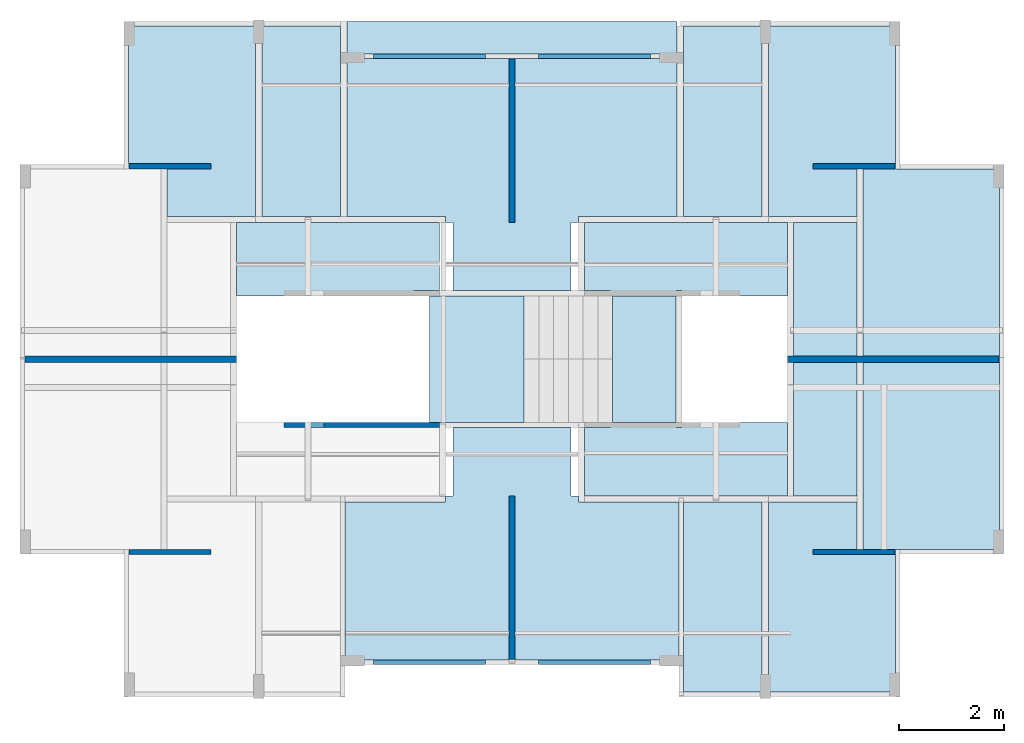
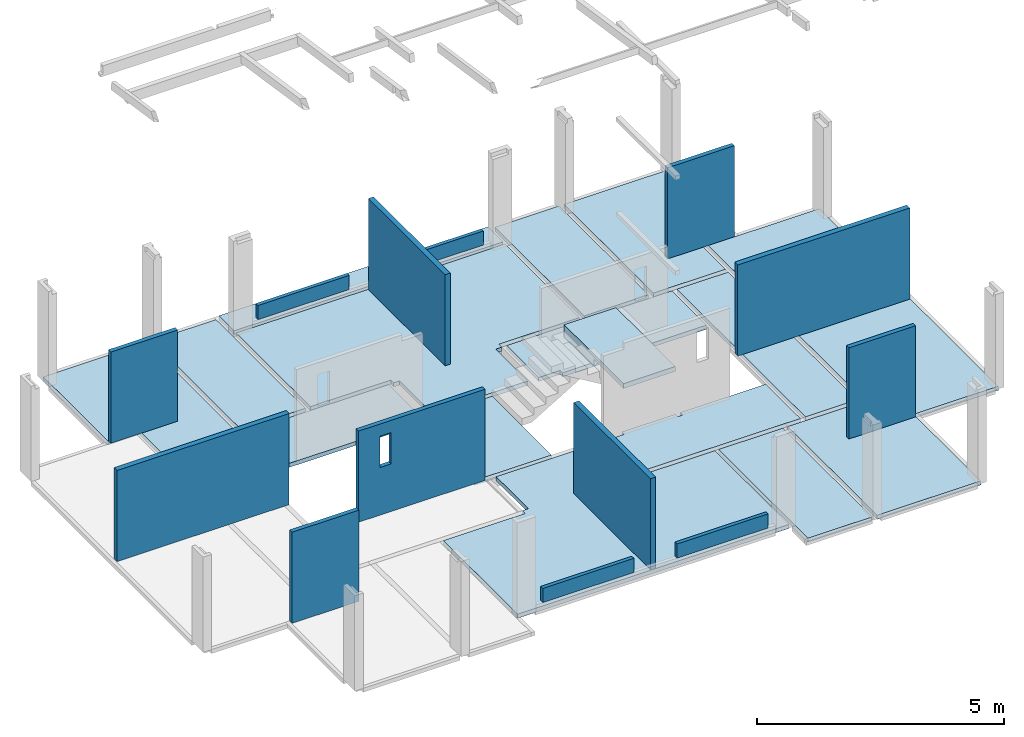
# One storey, part 6 of 9: 16 slabs, 13 walls, 1 opening, 1 element without a shape of its own.
"""IFC4 building model written with IfcOpenShell, lengths in metres."""

from ifc_helpers import new_model, entity, si_unit, converted_unit, derived_unit, direction, frame, frame_2d, origin, place, context, subcontext, project, spatial, polyline, indexed_curve, rectangle, outline, extrude, polygons, material, type_object, element, aggregate, save


model = new_model("IFC4")

# Units and contexts
model_context = context("Model", 3, precision=1e-05, world=origin(), true_north=direction((6.123031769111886e-17, 1.0)))
body_context = subcontext(model_context, "Body", "Model", "MODEL_VIEW")
ifc_project = project(units=[si_unit("LENGTHUNIT", "METRE"), si_unit("AREAUNIT", "SQUARE_METRE"), si_unit("VOLUMEUNIT", "CUBIC_METRE"), converted_unit("PLANEANGLEUNIT", "DEGREE", entity("IfcRatioMeasure", 0.017453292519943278), si_unit("PLANEANGLEUNIT", "RADIAN"), dimensions=[0, 0, 0, 0, 0, 0, 0]), si_unit("MASSUNIT", "GRAM", prefix="KILO"), derived_unit("MASSDENSITYUNIT", [(si_unit("MASSUNIT", "GRAM", prefix="KILO"), 1), (si_unit("LENGTHUNIT", "METRE"), -3)]), derived_unit("IONCONCENTRATIONUNIT", [(si_unit("MASSUNIT", "GRAM", prefix="KILO"), 1), (si_unit("LENGTHUNIT", "METRE"), -3)]), derived_unit("MOMENTOFINERTIAUNIT", [(si_unit("LENGTHUNIT", "METRE"), 4)]), si_unit("TIMEUNIT", "SECOND"), si_unit("FREQUENCYUNIT", "HERTZ"), si_unit("THERMODYNAMICTEMPERATUREUNIT", "DEGREE_CELSIUS"), derived_unit("THERMALTRANSMITTANCEUNIT", [(si_unit("MASSUNIT", "GRAM", prefix="KILO"), 1), (si_unit("THERMODYNAMICTEMPERATUREUNIT", "KELVIN"), -1), (si_unit("TIMEUNIT", "SECOND"), -3)]), derived_unit("THERMALCONDUCTANCEUNIT", [(si_unit("MASSUNIT", "GRAM", prefix="KILO"), 1), (si_unit("THERMODYNAMICTEMPERATUREUNIT", "KELVIN"), -1), (si_unit("TIMEUNIT", "SECOND"), -3), (si_unit("LENGTHUNIT", "METRE"), 1)]), derived_unit("VOLUMETRICFLOWRATEUNIT", [(si_unit("LENGTHUNIT", "METRE"), 3), (si_unit("TIMEUNIT", "SECOND"), -1)]), derived_unit("MASSFLOWRATEUNIT", [(si_unit("MASSUNIT", "GRAM", prefix="KILO"), 1), (si_unit("TIMEUNIT", "SECOND"), -1)]), derived_unit("ROTATIONALFREQUENCYUNIT", [(si_unit("TIMEUNIT", "SECOND"), -1)]), si_unit("ELECTRICCURRENTUNIT", "AMPERE"), si_unit("ELECTRICVOLTAGEUNIT", "VOLT"), si_unit("POWERUNIT", "WATT"), si_unit("FORCEUNIT", "NEWTON", prefix="KILO"), si_unit("ILLUMINANCEUNIT", "LUX"), si_unit("LUMINOUSFLUXUNIT", "LUMEN"), si_unit("LUMINOUSINTENSITYUNIT", "CANDELA"), derived_unit("USERDEFINED", [(si_unit("MASSUNIT", "GRAM", prefix="KILO"), -1), (si_unit("LENGTHUNIT", "METRE"), -2), (si_unit("TIMEUNIT", "SECOND"), 3), (si_unit("LUMINOUSFLUXUNIT", "LUMEN"), 1)]), derived_unit("USERDEFINED", [(si_unit("MASSUNIT", "GRAM", prefix="KILO"), 1), (si_unit("TIMEUNIT", "SECOND"), -3), (si_unit("LENGTHUNIT", "METRE"), 3), (si_unit("ELECTRICCURRENTUNIT", "AMPERE"), -2)]), derived_unit("SOUNDPOWERUNIT", [(si_unit("MASSUNIT", "GRAM", prefix="KILO"), 1), (si_unit("TIMEUNIT", "SECOND"), -3), (si_unit("LENGTHUNIT", "METRE"), 2)]), derived_unit("SOUNDPRESSUREUNIT", [(si_unit("MASSUNIT", "GRAM", prefix="KILO"), 1), (si_unit("LENGTHUNIT", "METRE"), -1), (si_unit("TIMEUNIT", "SECOND"), -2)]), derived_unit("LINEARVELOCITYUNIT", [(si_unit("LENGTHUNIT", "METRE"), 1), (si_unit("TIMEUNIT", "SECOND"), -1)]), si_unit("PRESSUREUNIT", "PASCAL"), derived_unit("USERDEFINED", [(si_unit("MASSUNIT", "GRAM", prefix="KILO"), 1), (si_unit("LENGTHUNIT", "METRE"), -2), (si_unit("TIMEUNIT", "SECOND"), -2)]), derived_unit("LINEARFORCEUNIT", [(si_unit("MASSUNIT", "GRAM", prefix="KILO"), 1), (si_unit("TIMEUNIT", "SECOND"), -2)]), derived_unit("PLANARFORCEUNIT", [(si_unit("MASSUNIT", "GRAM", prefix="KILO"), 1), (si_unit("LENGTHUNIT", "METRE"), -1), (si_unit("TIMEUNIT", "SECOND"), -2)]), derived_unit("SPECIFICHEATCAPACITYUNIT", [(si_unit("THERMODYNAMICTEMPERATUREUNIT", "KELVIN"), -1), (si_unit("LENGTHUNIT", "METRE"), 2), (si_unit("TIMEUNIT", "SECOND"), -2)]), derived_unit("HEATINGVALUEUNIT", [(si_unit("LENGTHUNIT", "METRE"), 2), (si_unit("TIMEUNIT", "SECOND"), -2)]), derived_unit("VAPORPERMEABILITYUNIT", [(si_unit("LENGTHUNIT", "METRE"), -1), (si_unit("TIMEUNIT", "SECOND"), 1)]), derived_unit("DYNAMICVISCOSITYUNIT", [(si_unit("MASSUNIT", "GRAM", prefix="KILO"), 1), (si_unit("TIMEUNIT", "SECOND"), -1), (si_unit("LENGTHUNIT", "METRE"), -1)]), derived_unit("THERMALEXPANSIONCOEFFICIENTUNIT", [(si_unit("THERMODYNAMICTEMPERATUREUNIT", "KELVIN"), -1)]), derived_unit("MODULUSOFELASTICITYUNIT", [(si_unit("MASSUNIT", "GRAM", prefix="KILO"), 1), (si_unit("LENGTHUNIT", "METRE"), -1), (si_unit("TIMEUNIT", "SECOND"), -2)]), derived_unit("ISOTHERMALMOISTURECAPACITYUNIT", [(si_unit("LENGTHUNIT", "METRE"), 3), (si_unit("MASSUNIT", "GRAM", prefix="KILO"), -1)]), derived_unit("MOISTUREDIFFUSIVITYUNIT", [(si_unit("TIMEUNIT", "SECOND"), -1), (si_unit("LENGTHUNIT", "METRE"), 2)])], contexts=[model_context])

# Site, building, storey
site_placement = place(None, origin())
site = spatial("IfcSite", under=ifc_project, at=site_placement, Name="Default", CompositionType="ELEMENT")
building_placement = place(site_placement, origin())
building = spatial("IfcBuilding", under=site, at=building_placement, Name="Las nubes", CompositionType="ELEMENT")
storey_placement = place(building_placement, frame((0.0, 0.0, 2.3500000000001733)))
storey = spatial("IfcBuildingStorey", under=building, at=storey_placement, Name="PISO 2", CompositionType="ELEMENT", Elevation=2.3500000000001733)

# Slabs
ifc_material_1 = material(Name="Concrete - Cast-in-Place Concrete - 28 MPa SLAB", Category="Materials")
slab_type_1 = type_object("IfcSlabType", Name="Floor:PLACA ESTRUCTURAL 0.10", PredefinedType="FLOOR", material=ifc_material_1)
slab_1_placement = place(storey_placement, origin())
element("IfcSlab", 1, at=slab_1_placement, inside=storey, type_object=slab_type_1, material=ifc_material_1, Name="Floor:PLACA ESTRUCTURAL 0.10", ObjectType="Floor:PLACA ESTRUCTURAL 0.10", PredefinedType="FLOOR", context=body_context, shape_type="SweptSolid", body=[
    extrude(outline(indexed_curve([(-0.5383333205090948, -1.0516670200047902), (2.0766666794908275, -1.0516670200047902), (2.07666667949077, 1.368332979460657), (-1.5383333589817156, 1.3683329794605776), (-1.5383333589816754, -0.316665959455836), (-0.5383333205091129, -0.31666595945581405), (-0.5383333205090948, -1.0516670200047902)], self_intersect=False)), frame((3.0841670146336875, -2.1716667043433, 0.0), z_axis=(0.0, 0.0, -1.0), x_axis=(0.0, 1.0, 0.0)), (0.0, 0.0, 1.0), 0.1),
])
slab_2_placement = place(storey_placement, origin())
element("IfcSlab", 2, at=slab_2_placement, inside=storey, type_object=slab_type_1, material=ifc_material_1, Name="Floor:PLACA ESTRUCTURAL 0.10", ObjectType="Floor:PLACA ESTRUCTURAL 0.10", PredefinedType="FLOOR", context=body_context, shape_type="SweptSolid", body=[
    extrude(outline(indexed_curve([(-3.7150000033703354, -0.9587507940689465), (3.7150000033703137, -0.9587507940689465), (3.7150000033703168, -0.33874973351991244), (3.614999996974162, -0.33874973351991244), (3.614999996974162, 1.636250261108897), (-3.6149999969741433, 1.636250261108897), (-3.6149999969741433, -0.3387497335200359), (-3.715000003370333, -0.33874973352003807), (-3.7150000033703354, -0.9587507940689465)], self_intersect=False)), frame((16.95124973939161, -6.425000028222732, 0.0), z_axis=(0.0, 0.0, -1.0), x_axis=(0.0, 1.0, 0.0)), (0.0, 0.0, 1.0), 0.1),
])
slab_3_placement = place(storey_placement, origin())
element("IfcSlab", 3, at=slab_3_placement, inside=storey, type_object=slab_type_1, material=ifc_material_1, Name="Floor:PLACA ESTRUCTURAL 0.10", ObjectType="Floor:PLACA ESTRUCTURAL 0.10", PredefinedType="FLOOR", context=body_context, shape_type="SweptSolid", body=[
    extrude(outline(indexed_curve([(-2.0766666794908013, -1.368332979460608), (1.538333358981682, -1.368332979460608), (1.5383333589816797, 0.316665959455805), (0.5383333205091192, 0.3166659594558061), (0.5383333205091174, 1.0516670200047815), (-2.0766666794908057, 1.0516670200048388), (-2.0766666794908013, -1.368332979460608)], self_intersect=False)), frame((15.56083298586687, -10.67833335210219, 0.0), z_axis=(0.0, 0.0, -1.0), x_axis=(0.0, 1.0, 0.0)), (0.0, 0.0, 1.0), 0.1),
])
slab_4_placement = place(storey_placement, origin())
element("IfcSlab", 4, at=slab_4_placement, inside=storey, type_object=slab_type_1, material=ifc_material_1, Name="Floor:PLACA ESTRUCTURAL 0.10", ObjectType="Floor:PLACA ESTRUCTURAL 0.10", PredefinedType="FLOOR", context=body_context, shape_type="SweptSolid", body=[
    extrude(outline(indexed_curve([(-1.5383333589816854, -1.3683329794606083), (2.0766666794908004, -1.3683329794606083), (2.076666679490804, 1.0516670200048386), (-0.538333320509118, 1.0516670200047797), (-0.5383333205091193, 0.3166659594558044), (-1.538333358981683, 0.31666595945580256), (-1.5383333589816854, -1.3683329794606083)], self_intersect=False)), frame((15.56083298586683, -2.1716667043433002, 0.0), z_axis=(0.0, 0.0, -1.0), x_axis=(0.0, 1.0, 0.0)), (0.0, 0.0, 1.0), 0.1),
])
slab_5_placement = place(storey_placement, frame((2.767501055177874, -12.755000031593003, -0.10000000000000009)))
element("IfcSlab", 5, at=slab_5_placement, inside=storey, type_object=slab_type_1, Name="Floor:PLACA ESTRUCTURAL 0.10:2", ObjectType="Floor:PLACA ESTRUCTURAL 0.10", PredefinedType="FLOOR", context=body_context, shape_type="SweptSolid", body=[
    extrude(outline(polyline([(1.3749999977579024, 2.557499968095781), (1.3749999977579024, 1.257500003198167), (1.8749999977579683, 1.257500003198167), (1.8749999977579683, 1.1575000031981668), (5.235000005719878, 1.1575000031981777), (5.235000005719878, 2.557499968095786), (1.3749999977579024, 2.557499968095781)])), frame((6.554998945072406, 6.372500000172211, 0.09999999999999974), z_axis=(0.0, 0.0, -1.0), x_axis=(-1.0, 0.0, 0.0)), (0.0, 0.0, 1.0), 0.1),
])
slab_6_placement = place(storey_placement, frame((2.767501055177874, -12.755000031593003, -0.10000000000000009)))
element("IfcSlab", 6, at=slab_6_placement, inside=storey, type_object=slab_type_1, Name="Floor:PLACA ESTRUCTURAL 0.10:4", ObjectType="Floor:PLACA ESTRUCTURAL 0.10", PredefinedType="FLOOR", context=body_context, shape_type="SweptSolid", body=[
    extrude(rectangle(XDim=3.6149999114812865, YDim=1.499999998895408, at=frame_2d((4.00500000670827, 4.480000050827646), x_axis=(0.0, -1.0))), frame((6.554998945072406, 6.372500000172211, 0.09999999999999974), z_axis=(0.0, 0.0, -1.0), x_axis=(-1.0, 0.0, 0.0)), (0.0, 0.0, 1.0), 0.1),
])
slab_7_placement = place(storey_placement, frame((2.767501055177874, -12.755000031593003, -0.10000000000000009)))
element("IfcSlab", 7, at=slab_7_placement, inside=storey, type_object=slab_type_1, Name="Floor:PLACA ESTRUCTURAL 0.10:6", ObjectType="Floor:PLACA ESTRUCTURAL 0.10", PredefinedType="FLOOR", context=body_context, shape_type="SweptSolid", body=[
    extrude(outline(polyline([(3.1400000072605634, 2.672500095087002), (3.140000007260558, 5.6725000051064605), (-3.140000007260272, 5.672500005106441), (-3.140000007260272, 2.672500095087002), (-1.2599999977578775, 2.672500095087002), (-1.2599999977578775, 2.5574999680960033), (-1.1199999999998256, 2.5574999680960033), (-1.1199999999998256, 1.2575000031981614), (1.1200000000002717, 1.2575000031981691), (1.1200000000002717, 2.5574999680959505), (1.2599999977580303, 2.5574999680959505), (1.2599999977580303, 2.672500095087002), (3.1400000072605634, 2.672500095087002)])), frame((6.554998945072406, 6.372500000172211, 0.09999999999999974), z_axis=(0.0, 0.0, -1.0), x_axis=(-1.0, 0.0, 0.0)), (0.0, 0.0, 1.0), 0.1),
])
slab_8_placement = place(storey_placement, frame((2.767501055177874, -12.755000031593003, -0.10000000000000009)))
element("IfcSlab", 8, at=slab_8_placement, inside=storey, type_object=slab_type_1, Name="Floor:PLACA ESTRUCTURAL 0.10:7", ObjectType="Floor:PLACA ESTRUCTURAL 0.10", PredefinedType="FLOOR", context=body_context, shape_type="SweptSolid", body=[
    extrude(outline(polyline([(1.2599999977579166, -2.642499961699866), (1.1200000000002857, -2.642499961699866), (1.1200000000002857, -1.3424999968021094), (-1.1199999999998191, -1.342499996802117), (-1.1199999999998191, -2.642499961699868), (-1.2599999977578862, -2.642499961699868), (-1.2599999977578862, -2.7575000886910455), (-3.1700000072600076, -2.7575000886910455), (-3.170000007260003, -5.757499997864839), (3.1700000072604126, -5.757499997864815), (3.170000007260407, -2.7575000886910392), (1.2599999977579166, -2.7575000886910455), (1.2599999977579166, -2.642499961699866)])), frame((6.554998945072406, 6.372500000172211, 0.09999999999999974), z_axis=(0.0, 0.0, -1.0), x_axis=(-1.0, 0.0, 0.0)), (0.0, 0.0, 1.0), 0.1),
])
slab_9_placement = place(storey_placement, frame((2.767501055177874, -12.755000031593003, -0.10000000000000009)))
element("IfcSlab", 9, at=slab_9_placement, inside=storey, type_object=slab_type_1, Name="Floor:PLACA ESTRUCTURAL 0.10:8", ObjectType="Floor:PLACA ESTRUCTURAL 0.10", PredefinedType="FLOOR", context=body_context, shape_type="SweptSolid", body=[
    extrude(rectangle(XDim=1.499999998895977, YDim=3.6149999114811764, at=frame_2d((-4.005000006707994, -4.565000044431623), x_axis=(1.0, 0.0))), frame((6.554998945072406, 6.372500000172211, 0.09999999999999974), z_axis=(0.0, 0.0, -1.0), x_axis=(-1.0, 0.0, 0.0)), (0.0, 0.0, 1.0), 0.1),
])
slab_10_placement = place(storey_placement, frame((2.767501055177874, -12.755000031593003, -0.10000000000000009)))
element("IfcSlab", 10, at=slab_10_placement, inside=storey, type_object=slab_type_1, Name="Floor:PLACA ESTRUCTURAL 0.10:9", ObjectType="Floor:PLACA ESTRUCTURAL 0.10", PredefinedType="FLOOR", context=body_context, shape_type="SweptSolid", body=[
    extrude(rectangle(XDim=1.499999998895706, YDim=3.614999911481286, at=frame_2d((-4.005000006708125, 4.480000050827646), x_axis=(1.0, 0.0))), frame((6.554998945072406, 6.372500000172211, 0.09999999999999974), z_axis=(0.0, 0.0, -1.0), x_axis=(-1.0, 0.0, 0.0)), (0.0, 0.0, 1.0), 0.1),
])
slab_11_placement = place(storey_placement, frame((2.767501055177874, -12.755000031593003, -0.10000000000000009)))
element("IfcSlab", 11, at=slab_11_placement, inside=storey, type_object=slab_type_1, Name="Floor:PLACA ESTRUCTURAL 0.10:10", ObjectType="Floor:PLACA ESTRUCTURAL 0.10", PredefinedType="FLOOR", context=body_context, shape_type="SweptSolid", body=[
    extrude(rectangle(XDim=1.2049989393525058, YDim=5.199999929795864, at=frame_2d((-5.95249947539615, -0.04249999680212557), x_axis=(1.0, 0.0))), frame((6.554998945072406, 6.372500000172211, 0.09999999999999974), z_axis=(0.0, 0.0, -1.0), x_axis=(-1.0, 0.0, 0.0)), (0.0, 0.0, 1.0), 0.1),
])
slab_12_placement = place(storey_placement, frame((2.767501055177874, -12.755000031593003, -0.10000000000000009)))
element("IfcSlab", 12, at=slab_12_placement, inside=storey, type_object=slab_type_1, Name="Floor:PLACA ESTRUCTURAL 0.10:11", ObjectType="Floor:PLACA ESTRUCTURAL 0.10", PredefinedType="FLOOR", context=body_context, shape_type="SweptSolid", body=[
    extrude(outline(polyline([(-3.1200000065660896, 1.1575000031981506), (-1.8750000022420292, 1.157500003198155), (-1.8750000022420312, 1.2575000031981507), (-1.3749999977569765, 1.2575000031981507), (-1.3749999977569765, 2.557500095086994), (-5.235000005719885, 2.5575000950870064), (-5.235000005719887, 1.1575000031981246), (-3.2350000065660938, 1.1575000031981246), (-3.2350000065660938, 1.257500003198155), (-3.1200000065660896, 1.257500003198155), (-3.1200000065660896, 1.1575000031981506)])), frame((6.554998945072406, 6.372500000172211, 0.09999999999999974), z_axis=(0.0, 0.0, -1.0), x_axis=(-1.0, 0.0, 0.0)), (0.0, 0.0, 1.0), 0.1),
])
slab_13_placement = place(storey_placement, frame((2.767501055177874, -12.755000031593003, -0.10000000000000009)))
element("IfcSlab", 13, at=slab_13_placement, inside=storey, type_object=slab_type_1, Name="Floor:PLACA ESTRUCTURAL 0.10:12", ObjectType="Floor:PLACA ESTRUCTURAL 0.10", PredefinedType="FLOOR", context=body_context, shape_type="SweptSolid", body=[
    extrude(outline(polyline([(-5.235000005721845, -2.6425000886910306), (-1.3749999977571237, -2.6425000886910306), (-1.3749999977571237, -1.342499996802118), (-1.8705227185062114, -1.342499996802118), (-1.8705227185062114, -1.2424999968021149), (-3.120000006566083, -1.2424999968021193), (-3.120000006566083, -1.3424999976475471), (-3.2350000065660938, -1.3424999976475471), (-3.2350000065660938, -1.2424999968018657), (-5.2350000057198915, -1.2424999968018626), (-5.235000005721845, -2.6425000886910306)])), frame((6.554998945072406, 6.372500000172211, 0.09999999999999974), z_axis=(0.0, 0.0, -1.0), x_axis=(-1.0, 0.0, 0.0)), (0.0, 0.0, 1.0), 0.1),
])
slab_14_placement = place(storey_placement, frame((2.767501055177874, -12.755000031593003, -0.10000000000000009)))
element("IfcSlab", 14, at=slab_14_placement, inside=storey, type_object=slab_type_1, Name="Floor:PLACA ESTRUCTURAL 0.10:13", ObjectType="Floor:PLACA ESTRUCTURAL 0.10", PredefinedType="FLOOR", context=body_context, shape_type="SweptSolid", body=[
    extrude(rectangle(XDim=6.280000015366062, YDim=0.6149999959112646, at=frame_2d((0.0, 6.06500000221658), x_axis=(1.0, 0.0))), frame((6.554998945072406, 6.372500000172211, 0.09999999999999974), z_axis=(0.0, 0.0, -1.0), x_axis=(-1.0, 0.0, 0.0)), (0.0, 0.0, 1.0), 0.1),
])

# Stair, slab
stair_type = type_object("IfcStairType", Name="Cast-In-Place Stair:B1080_Escalera Monolitica en Concreto", PredefinedType="HALF_TURN_STAIR")
stair_placement = place(storey_placement, origin())
stair = element("IfcStair", 15, at=stair_placement, inside=storey, type_object=stair_type, Name="Cast-In-Place Stair:Stair", ObjectType="Cast-In-Place Stair:B1080_Escalera Monolitica en Concreto", PredefinedType="HALF_TURN_STAIR")
ifc_material_2 = material(Name="Concrete, Cast-in-Place gray", Category="Materials")
slab_type_2 = type_object("IfcSlabType", Name="Monolithic Landing:120mm Thickness", PredefinedType="LANDING")
slab_15_placement = place(stair_placement, frame((11.232500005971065, -7.625000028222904, 0.0)))
slab_15 = element("IfcSlab", 16, at=slab_15_placement, type_object=slab_type_2, material=ifc_material_2, Name="Cast-In-Place Stair:Stair:524135 Landing 1", ObjectType="Monolithic Landing:120mm Thickness", PredefinedType="LANDING", context=body_context, shape_type="Tessellation", body=[
    polygons([(4.331468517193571e-15, 2.4000000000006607, 1.1750000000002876), (4.331468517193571e-15, 1.2000000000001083, 1.1750000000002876), (4.331468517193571e-15, 1.199000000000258, 1.1750000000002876), (4.331468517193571e-15, 0.0, 1.1750000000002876), (1.2100000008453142, 0.0, 1.1750000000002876), (1.2100000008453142, 2.4000000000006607, 1.1750000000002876), (0.31321383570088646, 2.4000000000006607, 1.1750000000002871), (1.2100000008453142, 0.0, 1.0550000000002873), (1.2100000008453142, 2.4000000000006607, 1.0550000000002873), (4.331468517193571e-15, 2.4000000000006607, 0.8672315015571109), (4.331468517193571e-15, 2.4000000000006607, 1.0071428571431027), (0.31321383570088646, 2.4000000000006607, 1.0550000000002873), (4.331468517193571e-15, 0.0, 1.0550000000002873), (0.31321383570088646, 1.2000000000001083, 1.0550000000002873), (4.331468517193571e-15, 1.199000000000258, 1.0550000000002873), (4.331468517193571e-15, 1.2000000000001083, 1.0550000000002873), (4.331468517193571e-15, 1.2000000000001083, 0.8672315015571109), (4.331468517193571e-15, 1.2000000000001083, 1.0071428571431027)], [[[1, 2, 3, 4, 5, 6, 7]], [[6, 5, 8, 9]], [[10, 11, 1, 7, 6, 9, 12]], [[5, 4, 13, 8]], [[14, 12, 9, 8, 13, 15, 16]], [[2, 1, 11, 10, 17, 18, 16]], [[3, 2, 16, 15]], [[12, 14, 17, 10]], [[14, 16, 18, 17]], [[4, 3, 15, 13]]], closed=True),
])
aggregate(stair, [slab_15])

# Slab
ifc_material_3 = material(Name="Concrete, Cast In Situ", Category="Materials")
slab_type_3 = type_object("IfcSlabType", Name="Floor:PLACA ESTRUCTURAL 0.12", PredefinedType="FLOOR", material=ifc_material_3)
slab_16_placement = place(storey_placement, origin())
element("IfcSlab", 17, at=slab_16_placement, inside=storey, type_object=slab_type_3, material=ifc_material_3, Name="Floor:PLACA ESTRUCTURAL 0.12", ObjectType="Floor:PLACA ESTRUCTURAL 0.12", PredefinedType="FLOOR", context=body_context, shape_type="SweptSolid", body=[
    extrude(outline(indexed_curve([(-1.2000000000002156, -0.8975000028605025), (1.2000000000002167, -0.8975000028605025), (1.2000000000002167, 0.8975000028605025), (-1.2000000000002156, 0.8975000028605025), (-1.2000000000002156, -0.8975000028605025)], self_intersect=False)), frame((8.65500000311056, -6.425000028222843, 0.0), z_axis=(0.0, 0.0, -1.0), x_axis=(0.0, 1.0, 0.0)), (0.0, 0.0, 1.0), 0.12000000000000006),
])

# Walls
ifc_material_4 = material(Name="Concrete - Cast-in-Place Concrete - 35 MPa", Category="Materials")
wall_type_1 = type_object("IfcWallType", Name="Basic Wall:MURO 12cm", PredefinedType="STANDARD")
wall_1_placement = place(storey_placement, frame((9.322500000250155, -12.129999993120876, 0.0), z_axis=(0.0, 0.0, 1.0), x_axis=(0.0, 1.0, 0.0)))
element("IfcWall", 18, at=wall_1_placement, inside=storey, type_object=wall_type_1, material=ifc_material_4, Name="Basic Wall:MURO 12cm", ObjectType="Basic Wall:MURO 12cm", PredefinedType="NOTDEFINED", context=body_context, shape_type="SweptSolid", body=[
    extrude(outline(indexed_curve([(3.1050000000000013, 0.060000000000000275), (-1.0151879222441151e-16, 0.060000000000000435), (1.0151879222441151e-16, -0.060000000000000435), (3.1050000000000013, -0.0600000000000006), (3.1050000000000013, 0.060000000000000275)], self_intersect=False)), origin(), (0.0, 0.0, 1.0), 2.2499999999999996),
])
wall_2_placement = place(storey_placement, frame((9.322500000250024, -0.7200000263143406, 0.0), z_axis=(0.0, 0.0, 1.0), x_axis=(0.0, -1.0, 0.0)))
element("IfcWall", 19, at=wall_2_placement, inside=storey, type_object=wall_type_1, material=ifc_material_4, Name="Basic Wall:MURO 12cm", ObjectType="Basic Wall:MURO 12cm", PredefinedType="NOTDEFINED", context=body_context, shape_type="SweptSolid", body=[
    extrude(outline(indexed_curve([(3.105000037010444, 0.060000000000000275), (3.38395989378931e-17, 0.060000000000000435), (1.0151879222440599e-16, -0.060000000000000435), (3.105000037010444, -0.0600000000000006), (3.105000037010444, 0.060000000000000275)], self_intersect=False)), origin(), (0.0, 0.0, 1.0), 2.2499999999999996),
])
wall_3_placement = place(storey_placement, frame((18.57750000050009, -6.425000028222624, 0.0), z_axis=(0.0, 0.0, 1.0), x_axis=(-1.0, 0.0, 0.0)))
element("IfcWall", 20, at=wall_3_placement, inside=storey, type_object=wall_type_1, material=ifc_material_4, Name="Basic Wall:MURO 12cm", ObjectType="Basic Wall:MURO 12cm", PredefinedType="NOTDEFINED", context=body_context, shape_type="SweptSolid", body=[
    extrude(outline(indexed_curve([(4.01999999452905, 0.06000000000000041), (-1.934650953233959e-16, 0.060000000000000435), (1.934650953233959e-16, -0.060000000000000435), (4.01999999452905, -0.06000000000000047), (4.01999999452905, 0.06000000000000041)], self_intersect=False)), origin(), (0.0, 0.0, 1.0), 2.2499999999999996),
])
wall_4_placement = place(storey_placement, frame((0.06750000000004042, -6.425000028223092, 0.0)))
element("IfcWall", 21, at=wall_4_placement, inside=storey, type_object=wall_type_1, material=ifc_material_4, Name="Basic Wall:MURO 12cm", ObjectType="Basic Wall:MURO 12cm", PredefinedType="NOTDEFINED", context=body_context, shape_type="SweptSolid", body=[
    extrude(outline(indexed_curve([(4.0199999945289, 0.060000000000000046), (-1.9797595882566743e-18, 0.060000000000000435), (1.9797595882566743e-18, -0.060000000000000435), (4.0199999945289, -0.06000000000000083), (4.0199999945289, 0.060000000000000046)], self_intersect=False)), origin(), (0.0, 0.0, 1.0), 2.2499999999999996),
])
wall_type_2 = type_object("IfcWallType", Name="Basic Wall:MURO 10cm", PredefinedType="STANDARD")
wall_5_placement = place(storey_placement, frame((3.602499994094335, -10.090000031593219, 0.0), z_axis=(0.0, 0.0, 1.0), x_axis=(-1.0, 0.0, 0.0)))
element("IfcWall", 22, at=wall_5_placement, inside=storey, type_object=wall_type_2, material=ifc_material_4, Name="Basic Wall:MURO 10cm", ObjectType="Basic Wall:MURO 10cm", PredefinedType="NOTDEFINED", context=body_context, shape_type="SweptSolid", body=[
    extrude(outline(indexed_curve([(1.5599999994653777, 0.049999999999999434), (-1.3794485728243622e-16, 0.04999999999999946), (1.3794485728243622e-16, -0.04999999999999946), (1.5599999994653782, -0.04999999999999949), (1.5599999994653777, 0.049999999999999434)], self_intersect=False)), origin(), (0.0, 0.0, 1.0), 2.2499999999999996),
])
wall_6_placement = place(storey_placement, frame((15.04250000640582, -10.090000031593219, 0.0)))
element("IfcWall", 23, at=wall_6_placement, inside=storey, type_object=wall_type_2, material=ifc_material_4, Name="Basic Wall:MURO 10cm", ObjectType="Basic Wall:MURO 10cm", PredefinedType="NOTDEFINED", context=body_context, shape_type="SweptSolid", body=[
    extrude(outline(indexed_curve([(1.5599999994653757, 0.049999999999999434), (-1.3794485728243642e-16, 0.04999999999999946), (1.3794485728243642e-16, -0.04999999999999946), (1.5599999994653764, -0.04999999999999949), (1.5599999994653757, 0.049999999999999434)], self_intersect=False)), origin(), (0.0, 0.0, 1.0), 2.2499999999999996),
])
wall_7_placement = place(storey_placement, frame((15.042500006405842, -2.7600000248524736, 0.0)))
element("IfcWall", 24, at=wall_7_placement, inside=storey, type_object=wall_type_2, material=ifc_material_4, Name="Basic Wall:MURO 10cm", ObjectType="Basic Wall:MURO 10cm", PredefinedType="NOTDEFINED", context=body_context, shape_type="SweptSolid", body=[
    extrude(outline(indexed_curve([(1.5600000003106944, 0.05), (-1.5618275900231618e-16, 0.05), (1.5618275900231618e-16, -0.05), (1.5600000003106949, -0.05), (1.5600000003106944, 0.05)], self_intersect=False)), origin(), (0.0, 0.0, 1.0), 2.2499999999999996),
])
wall_8_placement = place(storey_placement, frame((3.6024999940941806, -2.7600000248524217, 0.0), z_axis=(0.0, 0.0, 1.0), x_axis=(-1.0, 0.0, 0.0)))
element("IfcWall", 25, at=wall_8_placement, inside=storey, type_object=wall_type_2, material=ifc_material_4, Name="Basic Wall:MURO 10cm", ObjectType="Basic Wall:MURO 10cm", PredefinedType="NOTDEFINED", context=body_context, shape_type="SweptSolid", body=[
    extrude(outline(indexed_curve([(1.5600000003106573, 0.05), (-1.5618275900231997e-16, 0.05), (1.5618275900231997e-16, -0.05), (1.5600000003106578, -0.05), (1.5600000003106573, 0.05)], self_intersect=False)), origin(), (0.0, 0.0, 1.0), 2.2499999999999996),
])

# Wall, opening
wall_9_placement = place(storey_placement, frame((7.942500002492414, -7.675000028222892, 0.0), z_axis=(0.0, 0.0, 1.0), x_axis=(-1.0, 0.0, 0.0)))
wall_9 = element("IfcWall", 26, at=wall_9_placement, inside=storey, type_object=wall_type_2, material=ifc_material_4, Name="Basic Wall:MURO 10cm", ObjectType="Basic Wall:MURO 10cm", PredefinedType="NOTDEFINED", context=body_context, shape_type="Tessellation", body=[
    polygons([(3.4812988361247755e-16, -0.050000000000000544, 2.707167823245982e-16), (0.4949999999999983, -0.050000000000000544, 2.707167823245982e-16), (2.9550000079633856, -0.050000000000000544, 2.707167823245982e-16), (2.9550000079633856, -0.050000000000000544, 2.25), (0.5000000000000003, -0.050000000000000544, 2.25), (3.4812988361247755e-16, -0.050000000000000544, 2.25), (3.4812988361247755e-16, -0.050000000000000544, 2.1000000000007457), (2.4550000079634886, -0.050000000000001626, 1.1737125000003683), (2.1898875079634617, -0.050000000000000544, 1.1737125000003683), (2.1898875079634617, -0.050000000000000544, 1.9500000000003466), (2.4550000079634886, -0.050000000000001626, 1.9500000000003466), (4.947108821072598e-16, 0.050000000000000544, 2.707167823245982e-16), (4.94710882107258e-16, 0.04999999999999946, 2.1000000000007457), (4.947108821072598e-16, 0.050000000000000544, 2.25), (0.5000000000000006, 0.04999999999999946, 2.250000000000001), (2.9550000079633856, 0.04999999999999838, 2.25), (2.9550000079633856, 0.04999999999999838, 2.707167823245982e-16), (0.4949999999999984, 0.04999999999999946, 2.707167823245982e-16), (2.4550000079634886, 0.04999999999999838, 1.1737125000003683), (2.4550000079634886, 0.04999999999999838, 1.9500000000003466), (2.189887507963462, 0.04999999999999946, 1.9500000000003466), (2.189887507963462, 0.04999999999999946, 1.1737125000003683)], [[[1, 2, 3, 4, 5, 6, 7], [8, 9, 10, 11]], [[12, 13, 14, 15, 16, 17, 18], [19, 20, 21, 22]], [[3, 2, 1, 12, 18, 17]], [[4, 3, 17, 16]], [[6, 5, 4, 16, 15, 14]], [[1, 7, 6, 14, 13, 12]], [[9, 8, 19, 22]], [[10, 9, 22, 21]], [[11, 10, 21, 20]], [[8, 11, 20, 19]]], closed=True),
])
opening_placement = place(wall_9_placement, origin())
element("IfcOpeningElement", 27, at=opening_placement, cuts=wall_9, Name="Basic Wall:MURO 10cm", PredefinedType="OPENING", context=body_context, shape_type="SweptSolid", body=[
    extrude(outline(indexed_curve([(-0.3881437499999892, -0.13255625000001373), (0.38814374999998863, -0.13255625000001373), (0.38814374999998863, 0.13255625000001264), (-0.3881437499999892, 0.13255625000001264), (-0.3881437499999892, -0.13255625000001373)], self_intersect=False)), frame((2.3224437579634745, 0.050000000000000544, 1.561856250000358), z_axis=(0.0, -1.0, 0.0), x_axis=(0.0, 0.0, 1.0)), (0.0, 0.0, 1.0), 0.1),
])

# Walls
wall_type_3 = type_object("IfcWallType", Name="Basic Wall:MURO .085cm", PredefinedType="STANDARD")
for number, where, name in (
    (28, (6.692499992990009, -12.182500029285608, 0.1499999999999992), "Basic Wall:MURO .085cm"),
    (29, (9.827500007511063, -12.182500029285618, 0.15000000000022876), "Basic Wall:MURO .085cm"),
):
    element("IfcWall", number, at=place(storey_placement, frame(where)), inside=storey, type_object=wall_type_3, material=ifc_material_1, Name=name, ObjectType="Basic Wall:MURO .085cm", PredefinedType="NOTDEFINED", context=body_context, shape_type="SweptSolid", body=[
        extrude(outline(indexed_curve([(2.1249999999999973, 0.04249999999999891), (-1.7146162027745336e-16, 0.042499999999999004), (1.7146162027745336e-16, -0.042499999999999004), (2.1249999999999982, -0.042499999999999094), (2.1249999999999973, 0.04249999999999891)], self_intersect=False)), origin(), (0.0, 0.0, 1.0), 0.35000000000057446),
    ])
wall_10_placement = place(storey_placement, frame((6.692499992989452, -0.6675000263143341, 0.15000000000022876)))
element("IfcWall", 30, at=wall_10_placement, inside=storey, type_object=wall_type_3, material=ifc_material_1, Name="Basic Wall:MURO .085cm", ObjectType="Basic Wall:MURO .085cm", PredefinedType="NOTDEFINED", context=body_context, shape_type="SweptSolid", body=[
    extrude(outline(indexed_curve([(2.1250000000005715, 0.04249999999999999), (-1.7146162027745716e-16, 0.04249999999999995), (1.7146162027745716e-16, -0.04249999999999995), (2.125000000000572, -0.042499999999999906), (2.1250000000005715, 0.04249999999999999)], self_intersect=False)), origin(), (0.0, 0.0, 1.0), 0.35000000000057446),
])
wall_11_placement = place(storey_placement, frame((9.82750000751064, -0.667500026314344, 0.15000000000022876)))
element("IfcWall", 31, at=wall_11_placement, inside=storey, type_object=wall_type_3, material=ifc_material_1, Name="Basic Wall:MURO .085cm", ObjectType="Basic Wall:MURO .085cm", PredefinedType="NOTDEFINED", context=body_context, shape_type="SweptSolid", body=[
    extrude(outline(indexed_curve([(2.1249999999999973, 0.04249999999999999), (-1.7146162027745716e-16, 0.04249999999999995), (1.7146162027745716e-16, -0.04249999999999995), (2.1249999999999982, -0.042499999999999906), (2.1249999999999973, 0.04249999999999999)], self_intersect=False)), origin(), (0.0, 0.0, 1.0), 0.35000000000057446),
])

save(model, "model.ifc")
